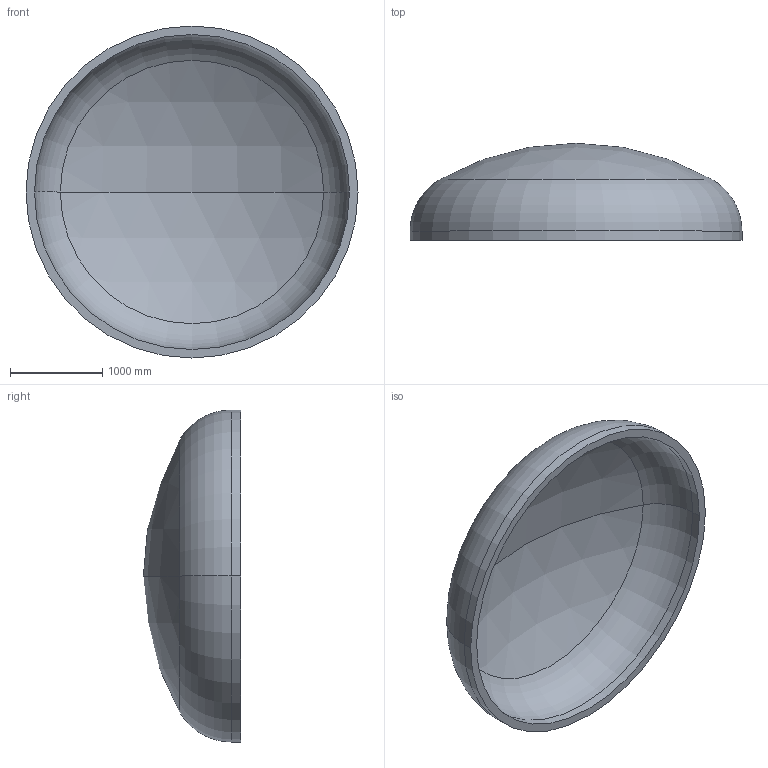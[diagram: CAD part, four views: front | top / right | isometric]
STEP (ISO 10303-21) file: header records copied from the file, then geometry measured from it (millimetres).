
FILE_DESCRIPTION (( 'STEP AP203' ), '1' );
FILE_NAME ('DIN 28013 Korbbogenform_-_Boden DIN 28013 - 3600 x 100 - I - s=92.step', '2016-07-01T20:46:15', ( '' ), ( '' ), 'SwSTEP 2.0', 'SolidWorks 2013', '' );
FILE_SCHEMA (( 'CONFIG_CONTROL_DESIGN' ));
Length unit declared in the file: millimetre
Products named in the file (1): DIN 28013 Korbbogenform_-_Boden DIN 28013 - 3600 x 100 - I - s=92
Bounding box: 3600 x 1053.04 x 3600 mm (x, y, z)
Volume: 1355891456.1 mm3; surface area: 30507523.2 mm2
Topology: 1 solids, 1 shells, 13 faces, 24 edges, 14 vertices
Faces by surface type: torus 4, cylinder 4, sphere 4, plane 1
Entity records: 407 total; most frequent: DIRECTION 72, CARTESIAN_POINT 52, ORIENTED_EDGE 48, AXIS2_PLACEMENT_3D 34, EDGE_CURVE 24, CIRCLE 20, VERTEX_POINT 14, EDGE_LOOP 14
